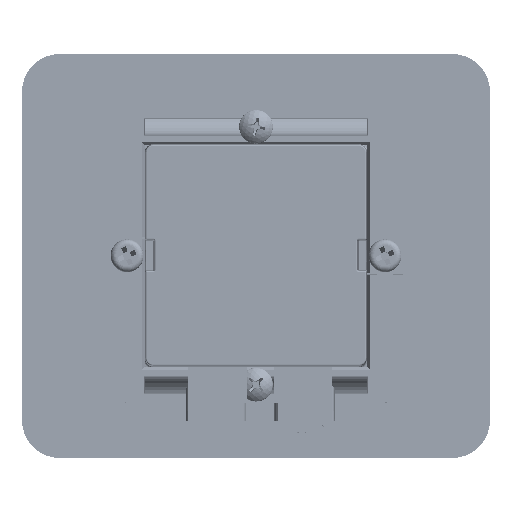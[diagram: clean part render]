
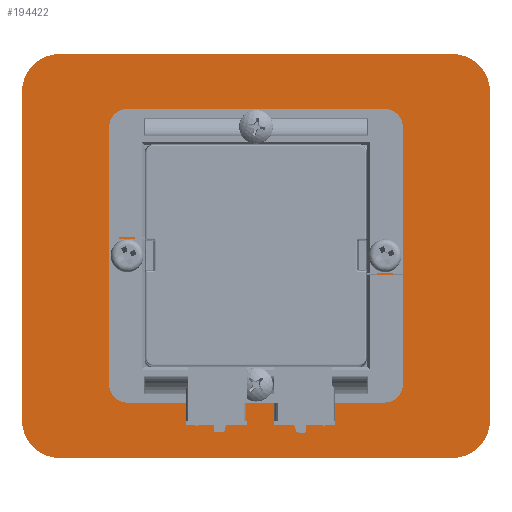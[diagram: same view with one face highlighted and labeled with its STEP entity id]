
A CAD part, top view. The second image highlights one B-rep face of the part: STEP entity #194422.
In plain terms, the highlighted planar face has unit normal (0, 0, 1) as drawn and (0, 1, 0) by its records, which use the part's own axes.
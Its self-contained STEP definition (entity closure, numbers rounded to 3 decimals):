
#816 = ORIENTED_EDGE ( 'NONE', *, *, #98252, .T. ) ;
#6603 = VECTOR ( 'NONE', #126186, 1000. ) ;
#7753 = DIRECTION ( 'NONE',  ( 0., 0., -1. ) ) ;
#11719 = FACE_BOUND ( 'NONE', #170551, .T. ) ;
#12745 = VECTOR ( 'NONE', #166163, 1000. ) ;
#13586 = DIRECTION ( 'NONE',  ( 0., 1., 0. ) ) ;
#13650 = VERTEX_POINT ( 'NONE', #103199 ) ;
#17394 = VECTOR ( 'NONE', #81629, 1000. ) ;
#20961 = VERTEX_POINT ( 'NONE', #139573 ) ;
#25173 = CIRCLE ( 'NONE', #190095, 7.694 ) ;
#27158 = CARTESIAN_POINT ( 'NONE',  ( 39.85, 2.5, -41.044 ) ) ;
#27424 = VERTEX_POINT ( 'NONE', #42555 ) ;
#29073 = DIRECTION ( 'NONE',  ( 0., 1., 0. ) ) ;
#31833 = EDGE_CURVE ( 'NONE', #228512, #128077, #222303, .T. ) ;
#35358 = DIRECTION ( 'NONE',  ( 0., 0., 1. ) ) ;
#35628 = ORIENTED_EDGE ( 'NONE', *, *, #201452, .F. ) ;
#37108 = EDGE_LOOP ( 'NONE', ( #226871, #816, #243179, #240046, #48764, #132753, #145238, #89161 ) ) ;
#39356 = LINE ( 'NONE', #91132, #12745 ) ;
#40390 = EDGE_CURVE ( 'NONE', #13650, #65100, #25173, .T. ) ;
#42555 = CARTESIAN_POINT ( 'NONE',  ( 47.544, 2.5, -33.35 ) ) ;
#48764 = ORIENTED_EDGE ( 'NONE', *, *, #220133, .T. ) ;
#49812 = DIRECTION ( 'NONE',  ( 0., 0., 1. ) ) ;
#50327 = DIRECTION ( 'NONE',  ( 0., 0., 1. ) ) ;
#51136 = CARTESIAN_POINT ( 'NONE',  ( -22.483, 2.5, 0. ) ) ;
#51266 = VERTEX_POINT ( 'NONE', #187211 ) ;
#51759 = VERTEX_POINT ( 'NONE', #207795 ) ;
#52682 = VERTEX_POINT ( 'NONE', #27158 ) ;
#53690 = EDGE_CURVE ( 'NONE', #65100, #27424, #194680, .T. ) ;
#54713 = VECTOR ( 'NONE', #7753, 1000. ) ;
#61570 = CIRCLE ( 'NONE', #226642, 7.694 ) ;
#61923 = CARTESIAN_POINT ( 'NONE',  ( -47.5, 2.5, 41.044 ) ) ;
#62713 = VECTOR ( 'NONE', #103179, 1000. ) ;
#65100 = VERTEX_POINT ( 'NONE', #197463 ) ;
#68462 = DIRECTION ( 'NONE',  ( 0., 0., 1. ) ) ;
#75546 = CIRCLE ( 'NONE', #91372, 7.694 ) ;
#76079 = CARTESIAN_POINT ( 'NONE',  ( -47.544, 2.5, -33.35 ) ) ;
#81629 = DIRECTION ( 'NONE',  ( 1., 0., 0. ) ) ;
#84814 = DIRECTION ( 'NONE',  ( 0., 1., 0. ) ) ;
#86259 = LINE ( 'NONE', #177274, #126877 ) ;
#88038 = CARTESIAN_POINT ( 'NONE',  ( -22.483, 2.5, -22.483 ) ) ;
#89161 = ORIENTED_EDGE ( 'NONE', *, *, #188411, .T. ) ;
#89827 = DIRECTION ( 'NONE',  ( 0., 0., 1. ) ) ;
#91132 = CARTESIAN_POINT ( 'NONE',  ( 22.483, 2.5, 0. ) ) ;
#91372 = AXIS2_PLACEMENT_3D ( 'NONE', #121376, #198854, #68462 ) ;
#91800 = EDGE_CURVE ( 'NONE', #214541, #99315, #175798, .T. ) ;
#98252 = EDGE_CURVE ( 'NONE', #20961, #228512, #194419, .T. ) ;
#99315 = VERTEX_POINT ( 'NONE', #88038 ) ;
#103179 = DIRECTION ( 'NONE',  ( -1., 0., 0. ) ) ;
#103199 = CARTESIAN_POINT ( 'NONE',  ( 39.85, 2.5, 41.044 ) ) ;
#104193 = AXIS2_PLACEMENT_3D ( 'NONE', #176712, #29073, #125017 ) ;
#107035 = CARTESIAN_POINT ( 'NONE',  ( 39.85, 2.5, -33.35 ) ) ;
#110031 = FACE_OUTER_BOUND ( 'NONE', #37108, .T. ) ;
#120863 = CARTESIAN_POINT ( 'NONE',  ( 47.544, 2.5, -41. ) ) ;
#121376 = CARTESIAN_POINT ( 'NONE',  ( -39.85, 2.5, 33.35 ) ) ;
#122750 = CARTESIAN_POINT ( 'NONE',  ( -47.544, 2.5, 33.35 ) ) ;
#123296 = CARTESIAN_POINT ( 'NONE',  ( 22.483, 2.5, -22.483 ) ) ;
#125017 = DIRECTION ( 'NONE',  ( 0., 0., 1. ) ) ;
#126186 = DIRECTION ( 'NONE',  ( 0., 0., 1. ) ) ;
#126877 = VECTOR ( 'NONE', #231363, 1000. ) ;
#128077 = VERTEX_POINT ( 'NONE', #122750 ) ;
#128897 = CARTESIAN_POINT ( 'NONE',  ( -47.544, 2.5, -41. ) ) ;
#132753 = ORIENTED_EDGE ( 'NONE', *, *, #40390, .T. ) ;
#133789 = CARTESIAN_POINT ( 'NONE',  ( 22.483, 2.5, 22.483 ) ) ;
#137975 = ORIENTED_EDGE ( 'NONE', *, *, #91800, .F. ) ;
#139573 = CARTESIAN_POINT ( 'NONE',  ( -39.85, 2.5, -41.044 ) ) ;
#141519 = VERTEX_POINT ( 'NONE', #133789 ) ;
#145238 = ORIENTED_EDGE ( 'NONE', *, *, #53690, .T. ) ;
#148420 = CARTESIAN_POINT ( 'NONE',  ( 0., 2.5, 22.483 ) ) ;
#162557 = ORIENTED_EDGE ( 'NONE', *, *, #197621, .F. ) ;
#166163 = DIRECTION ( 'NONE',  ( 0., 0., -1. ) ) ;
#170551 = EDGE_LOOP ( 'NONE', ( #238395, #137975, #162557, #35628 ) ) ;
#175798 = LINE ( 'NONE', #212664, #62713 ) ;
#176712 = CARTESIAN_POINT ( 'NONE',  ( -39.85, 2.5, -33.35 ) ) ;
#177274 = CARTESIAN_POINT ( 'NONE',  ( -47.5, 2.5, -41.044 ) ) ;
#179511 = CARTESIAN_POINT ( 'NONE',  ( 39.85, 2.5, 33.35 ) ) ;
#180048 = EDGE_CURVE ( 'NONE', #52682, #20961, #86259, .T. ) ;
#181142 = AXIS2_PLACEMENT_3D ( 'NONE', #218295, #219493, #49812 ) ;
#185282 = LINE ( 'NONE', #148420, #237763 ) ;
#187211 = CARTESIAN_POINT ( 'NONE',  ( -22.483, 2.5, 22.483 ) ) ;
#188411 = EDGE_CURVE ( 'NONE', #27424, #52682, #61570, .T. ) ;
#190095 = AXIS2_PLACEMENT_3D ( 'NONE', #179511, #84814, #50327 ) ;
#194419 = CIRCLE ( 'NONE', #104193, 7.694 ) ;
#194422 = ADVANCED_FACE ( 'NONE', ( #110031, #11719 ), #237978, .T. ) ;
#194680 = LINE ( 'NONE', #120863, #54713 ) ;
#197183 = LINE ( 'NONE', #61923, #17394 ) ;
#197463 = CARTESIAN_POINT ( 'NONE',  ( 47.544, 2.5, 33.35 ) ) ;
#197621 = EDGE_CURVE ( 'NONE', #141519, #214541, #39356, .T. ) ;
#198854 = DIRECTION ( 'NONE',  ( 0., 1., 0. ) ) ;
#201452 = EDGE_CURVE ( 'NONE', #51266, #141519, #185282, .T. ) ;
#207795 = CARTESIAN_POINT ( 'NONE',  ( -39.85, 2.5, 41.044 ) ) ;
#212664 = CARTESIAN_POINT ( 'NONE',  ( 0., 2.5, -22.483 ) ) ;
#214541 = VERTEX_POINT ( 'NONE', #123296 ) ;
#218295 = CARTESIAN_POINT ( 'NONE',  ( 0., 2.5, 0. ) ) ;
#219493 = DIRECTION ( 'NONE',  ( 0., 1., 0. ) ) ;
#219596 = LINE ( 'NONE', #51136, #6603 ) ;
#220133 = EDGE_CURVE ( 'NONE', #51759, #13650, #197183, .T. ) ;
#221246 = EDGE_CURVE ( 'NONE', #99315, #51266, #219596, .T. ) ;
#222303 = LINE ( 'NONE', #128897, #234819 ) ;
#226642 = AXIS2_PLACEMENT_3D ( 'NONE', #107035, #13586, #89827 ) ;
#226871 = ORIENTED_EDGE ( 'NONE', *, *, #180048, .T. ) ;
#228512 = VERTEX_POINT ( 'NONE', #76079 ) ;
#231363 = DIRECTION ( 'NONE',  ( -1., 0., 0. ) ) ;
#234819 = VECTOR ( 'NONE', #35358, 1000. ) ;
#237763 = VECTOR ( 'NONE', #241806, 1000. ) ;
#237978 = PLANE ( 'NONE',  #181142 ) ;
#238395 = ORIENTED_EDGE ( 'NONE', *, *, #221246, .F. ) ;
#240046 = ORIENTED_EDGE ( 'NONE', *, *, #242578, .T. ) ;
#241806 = DIRECTION ( 'NONE',  ( 1., 0., 0. ) ) ;
#242578 = EDGE_CURVE ( 'NONE', #128077, #51759, #75546, .T. ) ;
#243179 = ORIENTED_EDGE ( 'NONE', *, *, #31833, .T. ) ;
